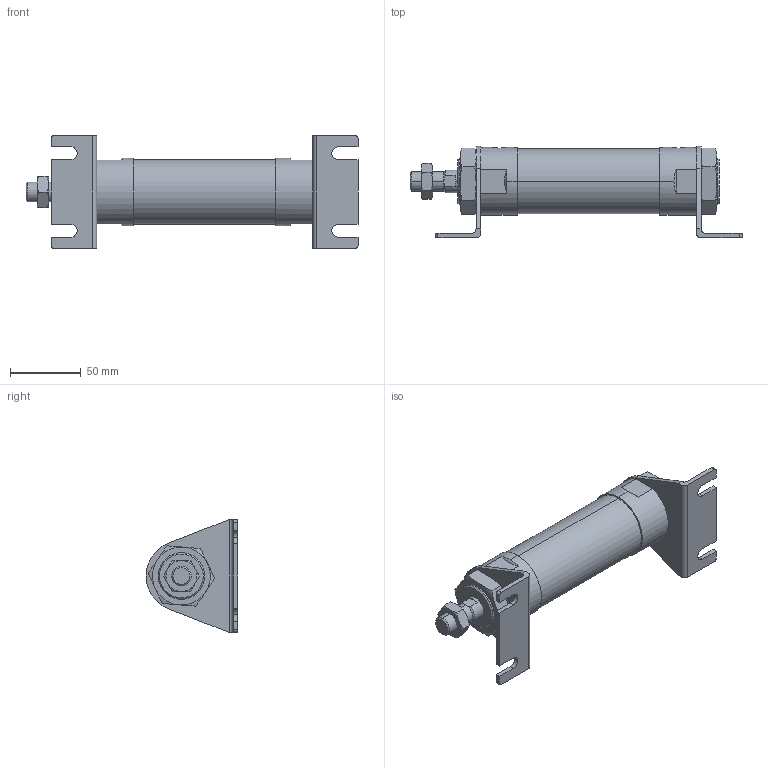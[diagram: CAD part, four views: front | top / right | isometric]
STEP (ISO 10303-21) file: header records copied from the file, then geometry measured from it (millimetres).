
FILE_DESCRIPTION (( 'STEP AP203' ), '1' );
FILE_NAME ('J#2-40-50-L.STEP', '2016-03-10T01:04:43', ( '' ), ( '' ), 'SwSTEP 2.0', 'SolidWorks 2014', '' );
FILE_SCHEMA (( 'CONFIG_CONTROL_DESIGN' ));
Length unit declared in the file: millimetre
Products named in the file (5): J#2-40-L; J#2-40-50-L; J#2-40-50
Assembly tree (6 placements, depth 2):
  J#2-40-50-L
    J#2-40-50
    (unnamed)
    (unnamed)  x2
    J#2-40-L  x2
Bounding box: 235.2 x 65 x 80 mm (x, y, z)
Volume: 339898.5 mm3; surface area: 63812.1 mm2
Topology: 6 solids, 6 shells, 170 faces, 404 edges, 249 vertices
Faces by surface type: plane 71, cylinder 48, torus 36, cone 15
Entity records: 4463 total; most frequent: CARTESIAN_POINT 1173, DIRECTION 578, ORIENTED_EDGE 558, EDGE_CURVE 279, AXIS2_PLACEMENT_3D 232, VERTEX_POINT 173, EDGE_LOOP 134, FACE_OUTER_BOUND 121
